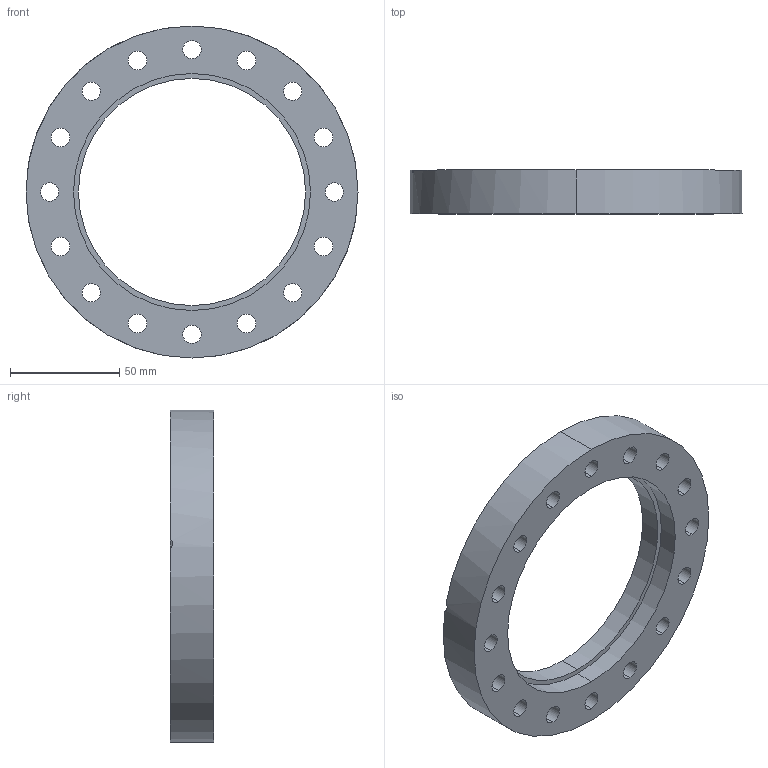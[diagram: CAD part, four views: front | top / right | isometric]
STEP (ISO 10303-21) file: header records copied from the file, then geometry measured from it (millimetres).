
FILE_DESCRIPTION (( 'STEP AP214' ), '1' );
FILE_NAME ('W6CFF100.STEP', '2021-05-14T10:35:23', ( '' ), ( '' ), 'SwSTEP 2.0', 'SolidWorks 2020', '' );
FILE_SCHEMA (( 'AUTOMOTIVE_DESIGN' ));
Length unit declared in the file: millimetre
Products named in the file (1): W6CFF100
Bounding box: 152 x 20 x 152 mm (x, y, z)
Volume: 165024.4 mm3; surface area: 42440.2 mm2
Topology: 1 solids, 1 shells, 57 faces, 152 edges, 98 vertices
Faces by surface type: cylinder 42, torus 6, plane 5, cone 4
Entity records: 1988 total; most frequent: CARTESIAN_POINT 376, DIRECTION 364, ORIENTED_EDGE 304, AXIS2_PLACEMENT_3D 158, EDGE_CURVE 152, CIRCLE 100, VERTEX_POINT 98, EDGE_LOOP 92
